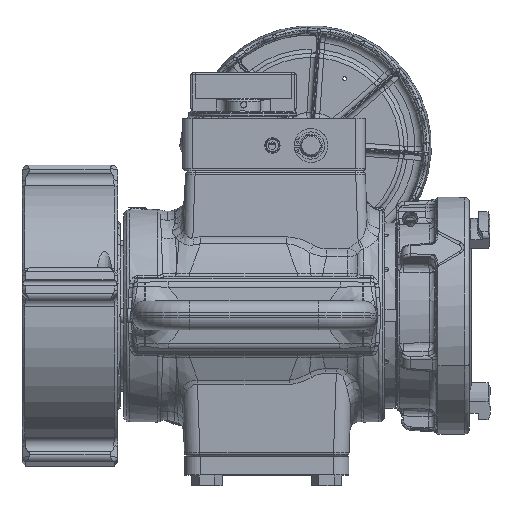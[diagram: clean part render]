
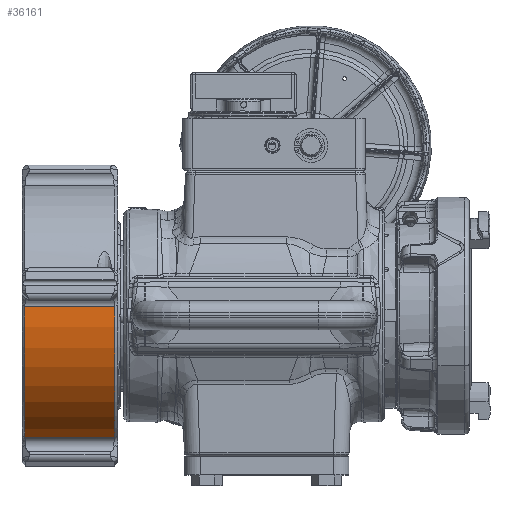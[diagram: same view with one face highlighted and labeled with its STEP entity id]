
A CAD part, top view. The second image highlights one B-rep face of the part: STEP entity #36161.
In plain terms, the highlighted cylindrical face has radius 85.725 mm (diameter 171.45 mm), a partial arc.
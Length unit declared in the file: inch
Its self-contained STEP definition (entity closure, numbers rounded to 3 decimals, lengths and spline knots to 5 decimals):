
#7974 = CARTESIAN_POINT ( 'NONE',  ( -5.6608, -3.15174, 1.20712 ) ) ;
#10718 = LINE ( 'NONE', #150678, #112305 ) ;
#23658 = EDGE_LOOP ( 'NONE', ( #209979, #140439, #25110, #52705 ) ) ;
#25110 = ORIENTED_EDGE ( 'NONE', *, *, #144557, .T. ) ;
#26600 = CARTESIAN_POINT ( 'NONE',  ( -5.6608, 0., 0. ) ) ;
#28113 = DIRECTION ( 'NONE',  ( -1., 0., 0. ) ) ;
#36161 = ADVANCED_FACE ( 'NONE', ( #95205 ), #92272, .T. ) ;
#38089 = CIRCLE ( 'NONE', #164756, 3.375 ) ;
#41721 = DIRECTION ( 'NONE',  ( -1., 0., 0. ) ) ;
#43995 = DIRECTION ( 'NONE',  ( 0., 0.215, 0.977 ) ) ;
#44147 = EDGE_CURVE ( 'NONE', #133103, #135923, #180711, .T. ) ;
#45568 = DIRECTION ( 'NONE',  ( -1., 0., 0. ) ) ;
#52705 = ORIENTED_EDGE ( 'NONE', *, *, #44147, .T. ) ;
#74786 = VERTEX_POINT ( 'NONE', #7974 ) ;
#92272 = CYLINDRICAL_SURFACE ( 'NONE', #175212, 3.375 ) ;
#95205 = FACE_OUTER_BOUND ( 'NONE', #23658, .T. ) ;
#103352 = CARTESIAN_POINT ( 'NONE',  ( -3.255, 0.23058, 3.36711 ) ) ;
#112305 = VECTOR ( 'NONE', #41721, 39.37008 ) ;
#116522 = CARTESIAN_POINT ( 'NONE',  ( -3.255, 0., 0. ) ) ;
#133103 = VERTEX_POINT ( 'NONE', #162820 ) ;
#135923 = VERTEX_POINT ( 'NONE', #136429 ) ;
#136429 = CARTESIAN_POINT ( 'NONE',  ( -5.6608, 0.23058, 3.36711 ) ) ;
#140439 = ORIENTED_EDGE ( 'NONE', *, *, #205477, .F. ) ;
#144557 = EDGE_CURVE ( 'NONE', #161288, #133103, #38089, .T. ) ;
#150678 = CARTESIAN_POINT ( 'NONE',  ( -3.255, -3.15174, 1.20712 ) ) ;
#151385 = DIRECTION ( 'NONE',  ( 0., -0.215, -0.977 ) ) ;
#161288 = VERTEX_POINT ( 'NONE', #210507 ) ;
#162820 = CARTESIAN_POINT ( 'NONE',  ( -3.3242, 0.23058, 3.36711 ) ) ;
#164756 = AXIS2_PLACEMENT_3D ( 'NONE', #209004, #28113, #174173 ) ;
#174173 = DIRECTION ( 'NONE',  ( 0., 0.215, 0.977 ) ) ;
#175212 = AXIS2_PLACEMENT_3D ( 'NONE', #116522, #45568, #43995 ) ;
#178575 = CIRCLE ( 'NONE', #184266, 3.375 ) ;
#180711 = LINE ( 'NONE', #103352, #194851 ) ;
#184266 = AXIS2_PLACEMENT_3D ( 'NONE', #26600, #224091, #151385 ) ;
#194851 = VECTOR ( 'NONE', #231427, 39.37008 ) ;
#201734 = EDGE_CURVE ( 'NONE', #74786, #135923, #178575, .T. ) ;
#205477 = EDGE_CURVE ( 'NONE', #161288, #74786, #10718, .T. ) ;
#209004 = CARTESIAN_POINT ( 'NONE',  ( -3.3242, 0., 0. ) ) ;
#209979 = ORIENTED_EDGE ( 'NONE', *, *, #201734, .F. ) ;
#210507 = CARTESIAN_POINT ( 'NONE',  ( -3.3242, -3.15174, 1.20712 ) ) ;
#224091 = DIRECTION ( 'NONE',  ( -1., 0., 0. ) ) ;
#231427 = DIRECTION ( 'NONE',  ( -1., 0., 0. ) ) ;
